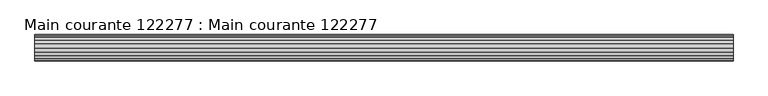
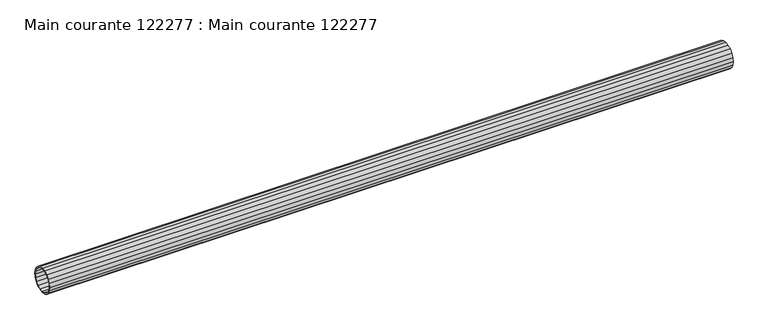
"""IFC4 building model written with IfcOpenShell, lengths in millimetres: beam geometry, Main courante 122277 : Main courante 122277."""

from ifc_helpers import new_model, si_unit, frame, origin, place, context, project, spatial, polyline, outline, extrude, source, transform, mapped, element, save


def main_courante_122277_main_courante_122277_c7d23ae7(model_context):
    return source(origin(), model_context, "Body", "SweptSolid", [
        extrude(outline(polyline([(-14166.5, 8765.0), (-14165.3180149, 8772.4627604), (-14161.8877604, 8779.1950138), (-14156.5450138, 8784.5377604), (-14149.8127604, 8787.9680149), (-14142.35, 8789.15), (-14134.8872396, 8787.9680149), (-14128.1549862, 8784.5377604), (-14122.8122396, 8779.1950138), (-14119.3819851, 8772.4627604), (-14118.2, 8765.0), (-14119.3819851, 8757.5372396), (-14122.8122396, 8750.8049862), (-14128.1549862, 8745.4622396), (-14134.8872396, 8742.0319851), (-14142.35, 8740.85), (-14149.8127604, 8742.0319851), (-14156.5450138, 8745.4622396), (-14161.8877604, 8750.8049862), (-14165.3180149, 8757.5372396), (-14166.5, 8765.0)]), holes=[polyline([(-14164.0, 8765.0), (-14162.9403736, 8758.3097821), (-14159.8652179, 8752.2744493), (-14155.0755507, 8747.4847821), (-14149.0402179, 8744.4096264), (-14142.35, 8743.35), (-14135.6597821, 8744.4096264), (-14129.6244493, 8747.4847821), (-14124.8347821, 8752.2744493), (-14121.7596264, 8758.3097821), (-14120.7, 8765.0), (-14121.7596264, 8771.6902179), (-14124.8347821, 8777.7255507), (-14129.6244493, 8782.5152179), (-14135.6597821, 8785.5903736), (-14142.35, 8786.65), (-14149.0402179, 8785.5903736), (-14155.0755507, 8782.5152179), (-14159.8652179, 8777.7255507), (-14162.9403736, 8771.6902179), (-14164.0, 8765.0)])]), frame((5015.9999999, 0.0, 0.0), z_axis=(1.0, 0.0, 0.0), x_axis=(0.0, 1.0, 0.0)), (0.0, 0.0, 1.0), 1285.5),
    ])


if __name__ == "__main__":
    model = new_model("IFC4")
    model_context = context("Model", 3, world=origin())
    ifc_project = project(units=[si_unit("LENGTHUNIT", "METRE", prefix="MILLI")], contexts=[model_context])
    site = spatial("IfcSite", under=ifc_project)
    building = spatial("IfcBuilding", under=site)
    placement = place(None, origin())
    main_courante_122277_main_courante_122277_shape = main_courante_122277_main_courante_122277_c7d23ae7(model_context)
    element("IfcBeam", 1, ObjectType="Main courante 122277 : Main courante 122277", at=placement, inside=building, context=model_context, shape_type="MappedRepresentation", body=[
        mapped(main_courante_122277_main_courante_122277_shape, transform((0.0, 0.0, 0.0), x_axis=(1.0, 0.0, 0.0), y_axis=(0.0, 1.0, 0.0), z_axis=(0.0, 0.0, 1.0))),
    ])
    save(model, "model.ifc")
